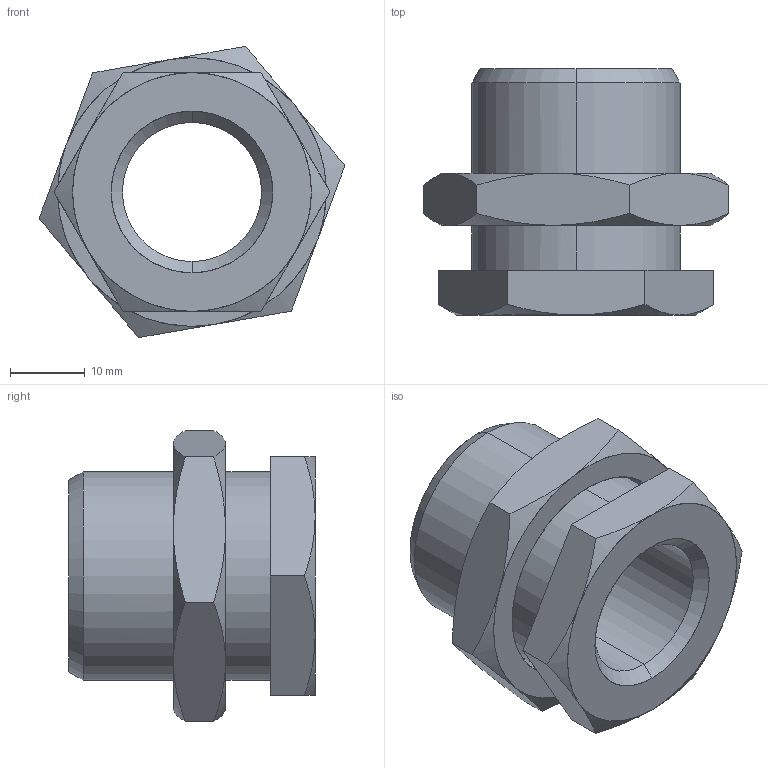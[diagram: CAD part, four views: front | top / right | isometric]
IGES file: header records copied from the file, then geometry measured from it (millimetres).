
Start section: SolidWorks IGES file using analytic representation for surfaces
Global section: file name: K:\Disegni Esecutivi\Accessori\3060\ASSIEMI_PIENI_3060\0306000005.IGS; native system: SolidWorks 2007; preprocessor: SolidWorks 2007; author: cad02; date: 071024.164724; units: millimetre
Bounding box: 40.96 x 33 x 39.02 mm (x, y, z)
Surface area: 7586.8 mm2 (no closed solid volume)
Topology: 0 solids, 0 shells, 53 faces, 854 edges, 854 vertices
Faces by surface type: revolution 36, bspline 17
